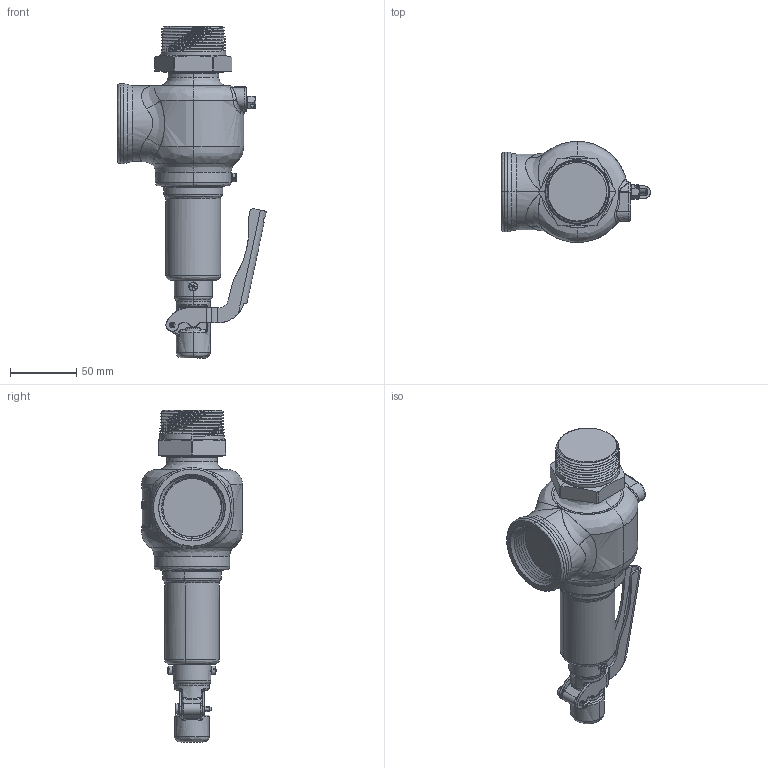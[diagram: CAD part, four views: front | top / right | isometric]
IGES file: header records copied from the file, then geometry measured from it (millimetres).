
Start section: SolidWorks IGES file using NURBS representation for surfaces
Global section: file name: C:\Design\Design\Aquatrol\Customer 3D Files\Series 740 Customer Files\F Orifice\Customer\Iges Files\Series 740 F 1500 x 1500 Open Lever.IGS; native system: SolidWorks 2015; preprocessor: SolidWorks 2015; author: Karl; date: 150515.102310; units: inch
Bounding box: 112.33 x 76.2 x 250.51 mm (x, y, z)
Surface area: 64706.3 mm2 (no closed solid volume)
Topology: 0 solids, 0 shells, 498 faces, 8261 edges, 8257 vertices
Faces by surface type: bspline 498
